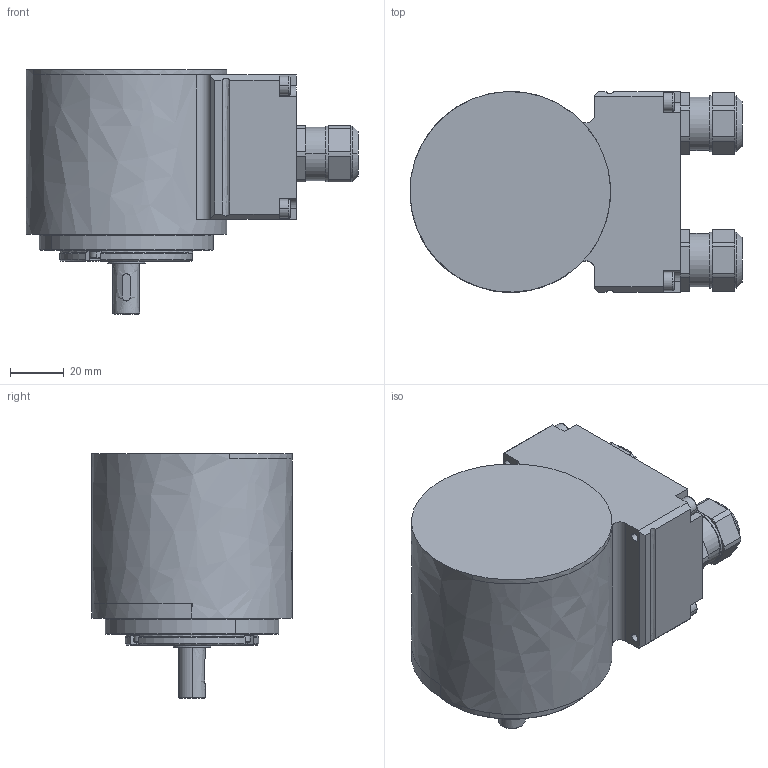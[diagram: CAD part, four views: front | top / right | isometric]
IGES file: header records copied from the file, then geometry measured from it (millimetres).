
Start section:  PTC IGES file: 2013395
Global section: file name: 2013395; native system: Pro/ENGINEER by Parametric Technology Corporation; preprocessor: 2011040; author: rink; organization: Unknown; date: 20130726.112406; units: millimetre
Bounding box: 124.1 x 75 x 91.5 mm (x, y, z)
Surface area: 55746.6 mm2 (no closed solid volume)
Topology: 0 solids, 0 shells, 589 faces, 3048 edges, 3010 vertices
Faces by surface type: revolution 349, bspline 240
